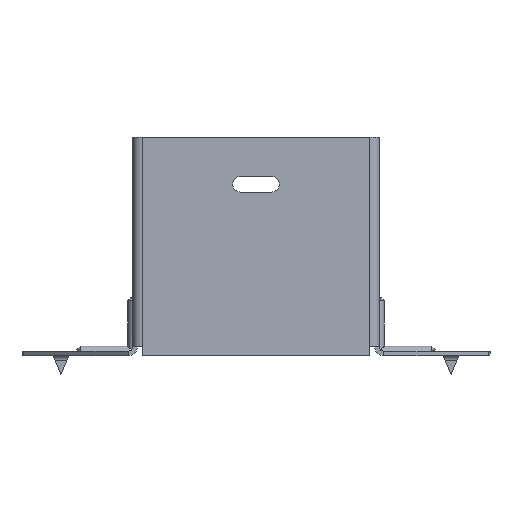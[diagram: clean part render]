
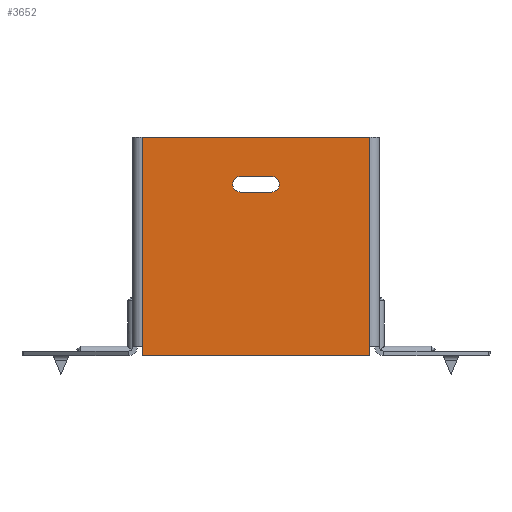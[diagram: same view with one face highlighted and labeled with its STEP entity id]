
A CAD part, front view. The second image highlights one B-rep face of the part: STEP entity #3652.
In plain terms, the highlighted planar face has unit normal (0, -1, 0).
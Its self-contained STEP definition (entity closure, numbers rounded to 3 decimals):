
#153 = CARTESIAN_POINT ( 'NONE',  ( -5., 0., -17.5 ) ) ;
#616 = VERTEX_POINT ( 'NONE', #4957 ) ;
#656 = CARTESIAN_POINT ( 'NONE',  ( -38., 0., 0. ) ) ;
#667 = CARTESIAN_POINT ( 'NONE',  ( 36.5, 0., -70. ) ) ;
#854 = CARTESIAN_POINT ( 'NONE',  ( 5., 0., -12.5 ) ) ;
#894 = LINE ( 'NONE', #7113, #11461 ) ;
#1085 = DIRECTION ( 'NONE',  ( 0., 1., 0. ) ) ;
#1336 = VECTOR ( 'NONE', #10856, 1000. ) ;
#1343 = VERTEX_POINT ( 'NONE', #153 ) ;
#1402 = CARTESIAN_POINT ( 'NONE',  ( -36.5, 0., 0. ) ) ;
#1458 = DIRECTION ( 'NONE',  ( 0., 0., 1. ) ) ;
#1663 = VECTOR ( 'NONE', #15092, 1000. ) ;
#1673 = ORIENTED_EDGE ( 'NONE', *, *, #3485, .T. ) ;
#2182 = VERTEX_POINT ( 'NONE', #15698 ) ;
#2534 = LINE ( 'NONE', #8389, #6204 ) ;
#2543 = VECTOR ( 'NONE', #11971, 1000. ) ;
#2552 = EDGE_LOOP ( 'NONE', ( #15369, #8986, #11855, #10647, #10482, #3722 ) ) ;
#3285 = DIRECTION ( 'NONE',  ( 1., 0., 0. ) ) ;
#3485 = EDGE_CURVE ( 'NONE', #10595, #11223, #2534, .T. ) ;
#3652 = ADVANCED_FACE ( 'NONE', ( #13794, #13614 ), #7251, .F. ) ;
#3722 = ORIENTED_EDGE ( 'NONE', *, *, #10541, .F. ) ;
#4052 = CIRCLE ( 'NONE', #15259, 2.5 ) ;
#4585 = CARTESIAN_POINT ( 'NONE',  ( 5., 0., -17.5 ) ) ;
#4957 = CARTESIAN_POINT ( 'NONE',  ( 36.5, 0., -67. ) ) ;
#4988 = CARTESIAN_POINT ( 'NONE',  ( -36.5, 0., 0. ) ) ;
#5333 = EDGE_CURVE ( 'NONE', #616, #14597, #6556, .T. ) ;
#5564 = VECTOR ( 'NONE', #3285, 1000. ) ;
#5807 = VERTEX_POINT ( 'NONE', #7511 ) ;
#6030 = CARTESIAN_POINT ( 'NONE',  ( -5., 0., -12.5 ) ) ;
#6170 = DIRECTION ( 'NONE',  ( 0., 1., 0. ) ) ;
#6204 = VECTOR ( 'NONE', #10752, 1000. ) ;
#6556 = LINE ( 'NONE', #8875, #7896 ) ;
#6558 = ORIENTED_EDGE ( 'NONE', *, *, #10586, .T. ) ;
#6588 = DIRECTION ( 'NONE',  ( 0., 0., -1. ) ) ;
#6834 = AXIS2_PLACEMENT_3D ( 'NONE', #9682, #1085, #15842 ) ;
#7113 = CARTESIAN_POINT ( 'NONE',  ( -5., 0., -17.5 ) ) ;
#7251 = PLANE ( 'NONE',  #13737 ) ;
#7399 = DIRECTION ( 'NONE',  ( 0., 0., 1. ) ) ;
#7457 = VERTEX_POINT ( 'NONE', #11482 ) ;
#7479 = LINE ( 'NONE', #656, #5564 ) ;
#7511 = CARTESIAN_POINT ( 'NONE',  ( -36.5, 0., 0. ) ) ;
#7716 = CARTESIAN_POINT ( 'NONE',  ( 36.5, 0., 0. ) ) ;
#7876 = LINE ( 'NONE', #9579, #1336 ) ;
#7896 = VECTOR ( 'NONE', #1458, 1000. ) ;
#8160 = VECTOR ( 'NONE', #6588, 1000. ) ;
#8389 = CARTESIAN_POINT ( 'NONE',  ( -5., 0., -12.5 ) ) ;
#8827 = CIRCLE ( 'NONE', #6834, 2.5 ) ;
#8849 = CARTESIAN_POINT ( 'NONE',  ( -5., 0., -15. ) ) ;
#8875 = CARTESIAN_POINT ( 'NONE',  ( 36.5, 0., -70. ) ) ;
#8986 = ORIENTED_EDGE ( 'NONE', *, *, #13944, .T. ) ;
#9301 = LINE ( 'NONE', #15619, #2543 ) ;
#9579 = CARTESIAN_POINT ( 'NONE',  ( -38., 0., -70. ) ) ;
#9682 = CARTESIAN_POINT ( 'NONE',  ( 5., 0., -15. ) ) ;
#9811 = EDGE_CURVE ( 'NONE', #1343, #10595, #4052, .T. ) ;
#9886 = DIRECTION ( 'NONE',  ( 0., 1., 0. ) ) ;
#10482 = ORIENTED_EDGE ( 'NONE', *, *, #5333, .T. ) ;
#10541 = EDGE_CURVE ( 'NONE', #5807, #14597, #7479, .T. ) ;
#10586 = EDGE_CURVE ( 'NONE', #11223, #14030, #8827, .T. ) ;
#10595 = VERTEX_POINT ( 'NONE', #6030 ) ;
#10638 = EDGE_CURVE ( 'NONE', #12340, #7457, #7876, .T. ) ;
#10647 = ORIENTED_EDGE ( 'NONE', *, *, #14309, .T. ) ;
#10752 = DIRECTION ( 'NONE',  ( 1., 0., 0. ) ) ;
#10767 = DIRECTION ( 'NONE',  ( -1., 0., 0. ) ) ;
#10856 = DIRECTION ( 'NONE',  ( -1., 0., 0. ) ) ;
#11223 = VERTEX_POINT ( 'NONE', #854 ) ;
#11461 = VECTOR ( 'NONE', #10767, 1000. ) ;
#11482 = CARTESIAN_POINT ( 'NONE',  ( -36.5, 0., -70. ) ) ;
#11855 = ORIENTED_EDGE ( 'NONE', *, *, #10638, .F. ) ;
#11971 = DIRECTION ( 'NONE',  ( 0., 0., 1. ) ) ;
#12142 = DIRECTION ( 'NONE',  ( 0., 0., 1. ) ) ;
#12340 = VERTEX_POINT ( 'NONE', #667 ) ;
#12501 = EDGE_CURVE ( 'NONE', #14030, #1343, #894, .T. ) ;
#13614 = FACE_OUTER_BOUND ( 'NONE', #2552, .T. ) ;
#13737 = AXIS2_PLACEMENT_3D ( 'NONE', #15838, #9886, #12142 ) ;
#13794 = FACE_BOUND ( 'NONE', #14539, .T. ) ;
#13944 = EDGE_CURVE ( 'NONE', #2182, #7457, #15639, .T. ) ;
#13957 = LINE ( 'NONE', #1402, #1663 ) ;
#14030 = VERTEX_POINT ( 'NONE', #4585 ) ;
#14309 = EDGE_CURVE ( 'NONE', #12340, #616, #9301, .T. ) ;
#14539 = EDGE_LOOP ( 'NONE', ( #15178, #15885, #1673, #6558 ) ) ;
#14597 = VERTEX_POINT ( 'NONE', #7716 ) ;
#15092 = DIRECTION ( 'NONE',  ( 0., 0., -1. ) ) ;
#15178 = ORIENTED_EDGE ( 'NONE', *, *, #12501, .T. ) ;
#15259 = AXIS2_PLACEMENT_3D ( 'NONE', #8849, #6170, #7399 ) ;
#15369 = ORIENTED_EDGE ( 'NONE', *, *, #15644, .T. ) ;
#15619 = CARTESIAN_POINT ( 'NONE',  ( 36.5, 0., -70. ) ) ;
#15639 = LINE ( 'NONE', #4988, #8160 ) ;
#15644 = EDGE_CURVE ( 'NONE', #5807, #2182, #13957, .T. ) ;
#15698 = CARTESIAN_POINT ( 'NONE',  ( -36.5, 0., -67. ) ) ;
#15838 = CARTESIAN_POINT ( 'NONE',  ( 0., 0., 0. ) ) ;
#15842 = DIRECTION ( 'NONE',  ( 0., 0., 1. ) ) ;
#15885 = ORIENTED_EDGE ( 'NONE', *, *, #9811, .T. ) ;
